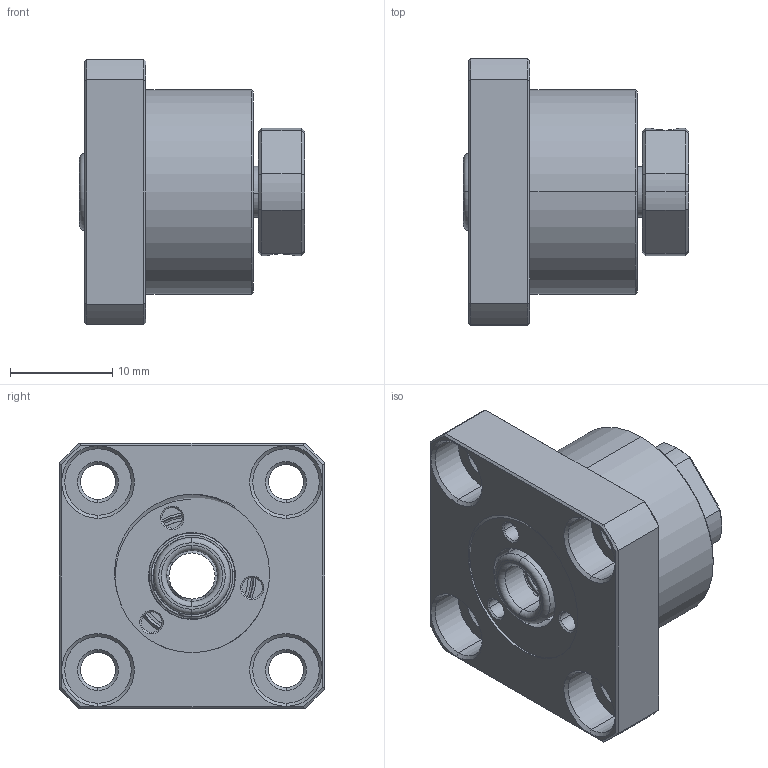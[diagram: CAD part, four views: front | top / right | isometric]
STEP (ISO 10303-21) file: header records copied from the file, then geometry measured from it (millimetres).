
FILE_DESCRIPTION (( 'STEP AP203' ), '1' );
FILE_NAME ('FK05²Õ¦X¥óB.STEP', '2017-12-28T05:38:54', ( '' ), ( '' ), 'SwSTEP 2.0', 'SolidWorks 2017', '' );
FILE_SCHEMA (( 'CONFIG_CONTROL_DESIGN' ));
Length unit declared in the file: millimetre
Products named in the file (1): FK05組合件B
Bounding box: 22 x 26 x 26 mm (x, y, z)
Surface area: 4015.9 mm2 (no closed solid volume)
Topology: 0 solids, 9 shells, 171 faces, 402 edges, 244 vertices
Faces by surface type: cylinder 62, cone 56, plane 38, torus 10, bspline 5
Entity records: 5755 total; most frequent: CARTESIAN_POINT 1786, DIRECTION 860, ORIENTED_EDGE 745, EDGE_CURVE 402, AXIS2_PLACEMENT_3D 359, VERTEX_POINT 244, EDGE_LOOP 199, CIRCLE 192
